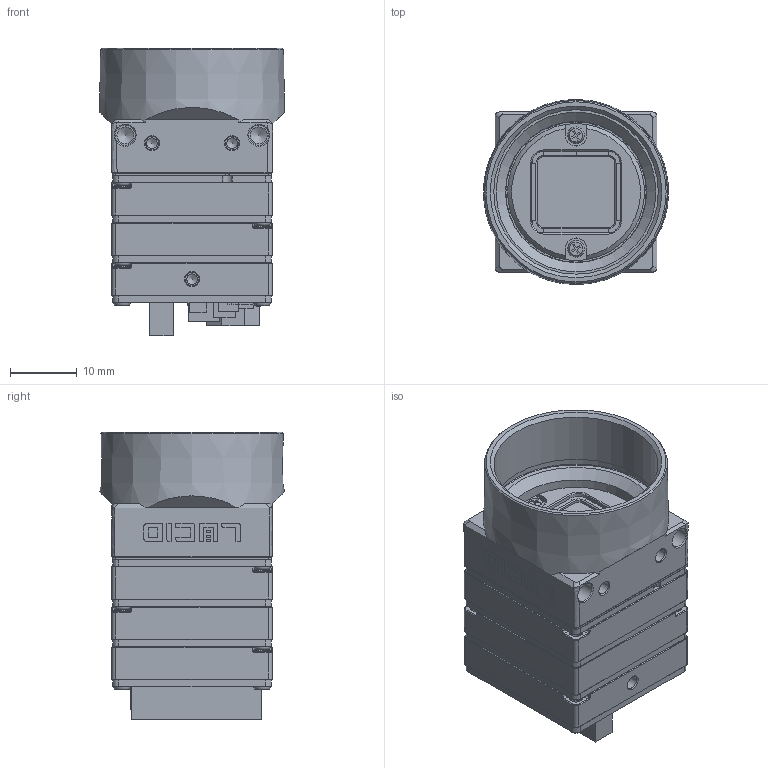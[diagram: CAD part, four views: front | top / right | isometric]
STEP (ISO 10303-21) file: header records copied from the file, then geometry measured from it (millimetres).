
FILE_DESCRIPTION (( 'STEP AP203' ), '1' );
FILE_NAME ('116-915-A.STEP', '2019-03-28T20:04:46', ( '' ), ( '' ), 'SwSTEP 2.0', 'SolidWorks 2017', '' );
FILE_SCHEMA (( 'CONFIG_CONTROL_DESIGN' ));
Products named in the file (1): 116-915-A
Bounding box: 27.71 x 27.67 x 43 mm (x, y, z)
Volume: 8375 mm3; surface area: 17061.8 mm2
Topology: 66 solids, 66 shells, 4334 faces, 11112 edges, 6798 vertices
Faces by surface type: plane 2495, cylinder 1069, bspline 323, cone 257, torus 124, sphere 66
Full cylindrical faces by diameter (mm): 1 x2, 1.05 x1, 1.1 x2, 1.2 x1, 1.35 x6, 1.6 x5, 1.7 x24, 1.8 x4, 1.9 x22, 2 x5, 2.5 x4, 3 x4, 24.64 x1, 25.5 x1
Entity records: 133425 total; most frequent: CARTESIAN_POINT 31399, ORIENTED_EDGE 21392, DIRECTION 20429, EDGE_CURVE 10696, LINE 7541, VECTOR 7541, VERTEX_POINT 6763, AXIS2_PLACEMENT_3D 6444
